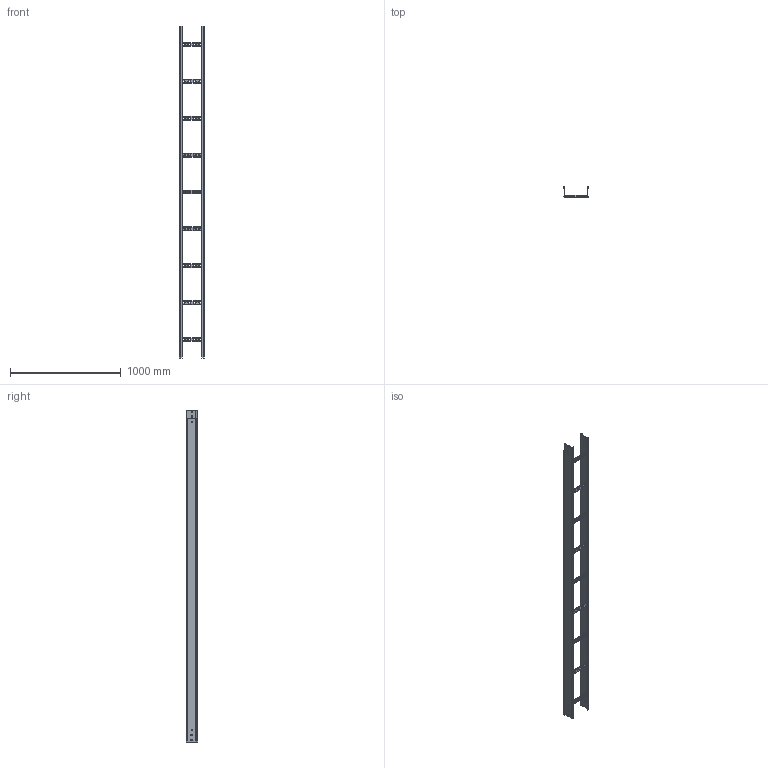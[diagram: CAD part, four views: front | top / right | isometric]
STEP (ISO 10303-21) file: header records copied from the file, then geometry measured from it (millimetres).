
FILE_DESCRIPTION (( 'STEP AP203' ), '1' );
FILE_NAME ('FE trav35 H60-75-100 p333 200x100.step', '2023-07-28T15:28:37', ( '' ), ( '' ), 'SwSTEP 2.0', 'SolidWorks 2022', '' );
FILE_SCHEMA (( 'CONFIG_CONTROL_DESIGN' ));
Length unit declared in the file: millimetre
Products named in the file (3): FE trav35 H60-75-100 p333 200x100; FE_MONTANTE_100x2; FE_RA35_200
Assembly tree (11 placements, depth 2):
  FE trav35 H60-75-100 p333 200x100
    FE_MONTANTE_100x2  x2
    FE_RA35_200  x9
Bounding box: 234 x 102 x 3000 mm (x, y, z)
Volume: 1911787.8 mm3; surface area: 2011527 mm2
Topology: 11 solids, 11 shells, 688 faces, 1708 edges, 1042 vertices
Faces by surface type: plane 440, cylinder 244, bspline 4
Entity records: 5437 total; most frequent: CARTESIAN_POINT 1225, DIRECTION 793, ORIENTED_EDGE 756, EDGE_CURVE 378, AXIS2_PLACEMENT_3D 280, VERTEX_POINT 241, VECTOR 233, LINE 233
